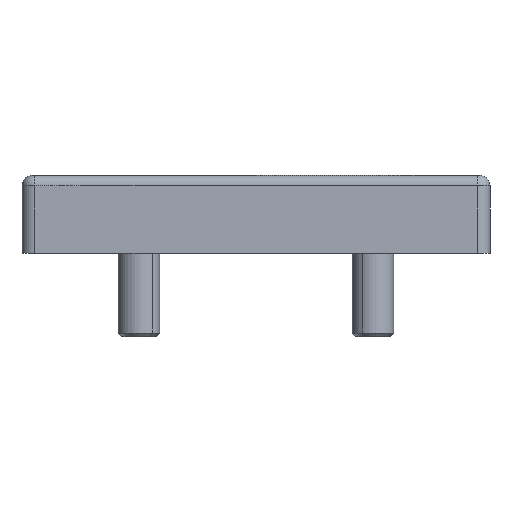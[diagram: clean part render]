
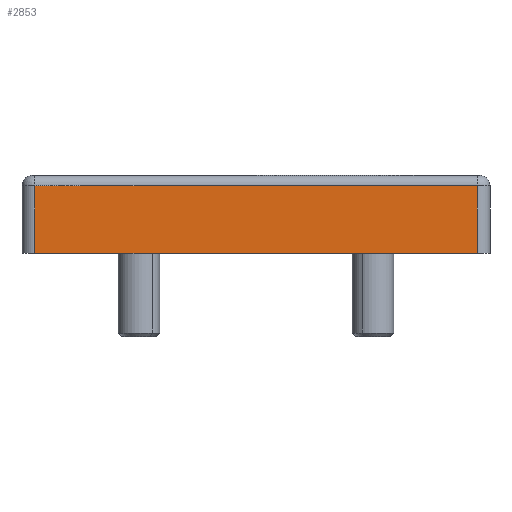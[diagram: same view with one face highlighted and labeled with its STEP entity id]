
A CAD part, left-side view. The second image highlights one B-rep face of the part: STEP entity #2853.
In plain terms, the highlighted planar face has unit normal (-1, 0, 0).
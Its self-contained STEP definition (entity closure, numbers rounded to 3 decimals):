
#120 = VERTEX_POINT ( 'NONE', #873 ) ;
#146 = CARTESIAN_POINT ( 'NONE',  ( -47.437, 48.145, 4.65 ) ) ;
#298 = DIRECTION ( 'NONE',  ( 0., -1., 0. ) ) ;
#420 = VECTOR ( 'NONE', #1566, 1000. ) ;
#531 = CARTESIAN_POINT ( 'NONE',  ( -47.437, 48.145, -8.35 ) ) ;
#718 = ORIENTED_EDGE ( 'NONE', *, *, #1578, .T. ) ;
#774 = LINE ( 'NONE', #146, #2334 ) ;
#873 = CARTESIAN_POINT ( 'NONE',  ( -47.437, 45.645, -8.35 ) ) ;
#1566 = DIRECTION ( 'NONE',  ( 0., 0., 1. ) ) ;
#1578 = EDGE_CURVE ( 'NONE', #120, #2721, #4043, .T. ) ;
#1717 = LINE ( 'NONE', #2177, #4918 ) ;
#1731 = PLANE ( 'NONE',  #3297 ) ;
#1987 = EDGE_LOOP ( 'NONE', ( #5940, #3601, #3044, #718 ) ) ;
#2177 = CARTESIAN_POINT ( 'NONE',  ( -47.437, 45.645, -8.35 ) ) ;
#2334 = VECTOR ( 'NONE', #2725, 1000. ) ;
#2501 = DIRECTION ( 'NONE',  ( 0., -1., 0. ) ) ;
#2721 = VERTEX_POINT ( 'NONE', #4469 ) ;
#2725 = DIRECTION ( 'NONE',  ( 0., 1., 0. ) ) ;
#2844 = VECTOR ( 'NONE', #2501, 1000. ) ;
#2853 = ADVANCED_FACE ( 'NONE', ( #4272 ), #1731, .T. ) ;
#3044 = ORIENTED_EDGE ( 'NONE', *, *, #3397, .T. ) ;
#3297 = AXIS2_PLACEMENT_3D ( 'NONE', #6276, #5790, #298 ) ;
#3397 = EDGE_CURVE ( 'NONE', #6245, #120, #1717, .T. ) ;
#3486 = EDGE_CURVE ( 'NONE', #3913, #6245, #774, .T. ) ;
#3601 = ORIENTED_EDGE ( 'NONE', *, *, #3486, .T. ) ;
#3913 = VERTEX_POINT ( 'NONE', #4622 ) ;
#4043 = LINE ( 'NONE', #531, #2844 ) ;
#4059 = CARTESIAN_POINT ( 'NONE',  ( -47.437, -39.355, -8.35 ) ) ;
#4272 = FACE_OUTER_BOUND ( 'NONE', #1987, .T. ) ;
#4469 = CARTESIAN_POINT ( 'NONE',  ( -47.437, -39.355, -8.35 ) ) ;
#4622 = CARTESIAN_POINT ( 'NONE',  ( -47.437, -39.355, 4.65 ) ) ;
#4918 = VECTOR ( 'NONE', #5090, 1000. ) ;
#5090 = DIRECTION ( 'NONE',  ( 0., 0., -1. ) ) ;
#5673 = EDGE_CURVE ( 'NONE', #2721, #3913, #6004, .T. ) ;
#5722 = CARTESIAN_POINT ( 'NONE',  ( -47.437, 45.645, 4.65 ) ) ;
#5790 = DIRECTION ( 'NONE',  ( -1., 0., 0. ) ) ;
#5940 = ORIENTED_EDGE ( 'NONE', *, *, #5673, .T. ) ;
#6004 = LINE ( 'NONE', #4059, #420 ) ;
#6245 = VERTEX_POINT ( 'NONE', #5722 ) ;
#6276 = CARTESIAN_POINT ( 'NONE',  ( -47.437, 48.145, -8.35 ) ) ;
